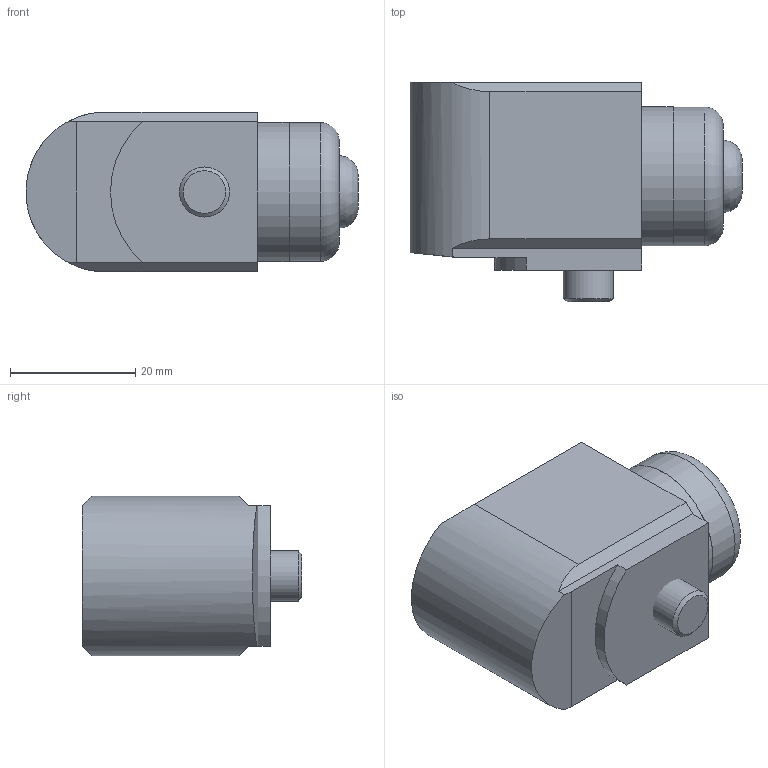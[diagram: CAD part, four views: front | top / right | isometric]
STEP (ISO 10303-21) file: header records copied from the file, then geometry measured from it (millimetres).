
FILE_DESCRIPTION(/* description */ (''),/* implementation_level */ '2;1');
FILE_NAME(/* name */ 'Z:\Engineering\Drawings\3D Library\Assemblies\Website\420 Velocity Side\HS-420SXXX0208.stp',/* time_stamp */ '2023-05-03T21:42:03+01:00',/* author */ ('Ricardo.Peneda'),/* organization */ (''),/* preprocessor_version */ 'ST-DEVELOPER v18.1',/* originating_system */ 'Autodesk Inventor 2021',/* authorisation */ '');
FILE_SCHEMA (('AUTOMOTIVE_DESIGN { 1 0 10303 214 3 1 1 }'));
Length unit declared in the file: inch
Products named in the file (1): HS-420SXXX0208_Shrinkwrap_1
Bounding box: 52.98 x 35 x 25.5 mm (x, y, z)
Volume: 20364.7 mm3; surface area: 11654.2 mm2
Topology: 4 solids, 4 shells, 58 faces, 142 edges, 105 vertices
Faces by surface type: plane 32, cylinder 19, cone 5, torus 1, bspline 1
Full cylindrical faces by diameter (mm): 4.2 x1, 6.4 x1, 6.647 x1, 8 x1, 11 x1, 11.2 x1, 13.941 x1, 15 x1, 17.941 x1, 18 x1, 19.891 x1, 20 x2, 20.4 x2, 22.141 x1, 22.2 x1
Entity records: 1940 total; most frequent: DIRECTION 347, CARTESIAN_POINT 332, ORIENTED_EDGE 284, AXIS2_PLACEMENT_3D 147, EDGE_CURVE 142, VERTEX_POINT 105, CIRCLE 84, EDGE_LOOP 75
